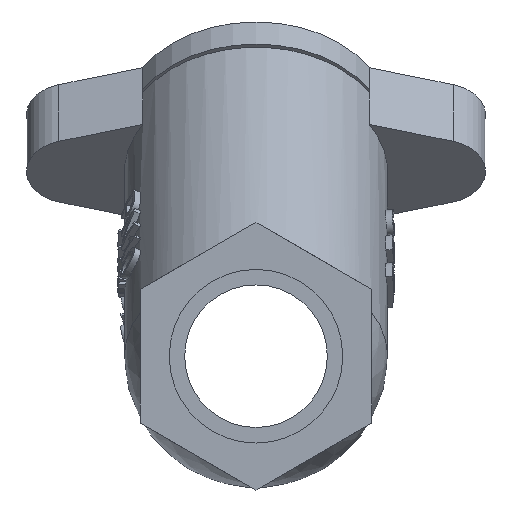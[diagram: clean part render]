
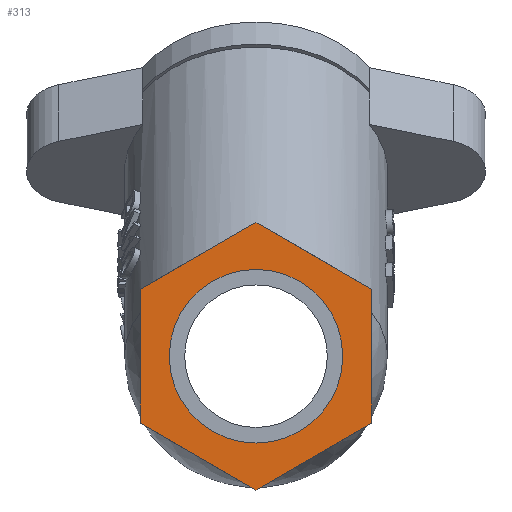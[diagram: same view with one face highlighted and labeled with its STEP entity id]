
A CAD part, left-side view. The second image highlights one B-rep face of the part: STEP entity #313.
In plain terms, the highlighted planar face has unit normal (-1, 0, 0).
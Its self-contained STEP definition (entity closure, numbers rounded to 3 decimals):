
#313 = ADVANCED_FACE( '', ( #791, #792 ), #793, .T. );
#791 = FACE_BOUND( '', #2138, .T. );
#792 = FACE_OUTER_BOUND( '', #2139, .T. );
#793 = PLANE( '', #2140 );
#2138 = EDGE_LOOP( '', ( #6624 ) );
#2139 = EDGE_LOOP( '', ( #6625, #6626, #6627, #6628, #6629, #6630 ) );
#2140 = AXIS2_PLACEMENT_3D( '', #6631, #6632, #6633 );
#6624 = ORIENTED_EDGE( '', *, *, #8209, .T. );
#6625 = ORIENTED_EDGE( '', *, *, #8210, .T. );
#6626 = ORIENTED_EDGE( '', *, *, #8072, .T. );
#6627 = ORIENTED_EDGE( '', *, *, #8211, .T. );
#6628 = ORIENTED_EDGE( '', *, *, #8167, .T. );
#6629 = ORIENTED_EDGE( '', *, *, #8212, .T. );
#6630 = ORIENTED_EDGE( '', *, *, #8213, .T. );
#6631 = CARTESIAN_POINT( '', ( -66., 0., 0. ) );
#6632 = DIRECTION( '', ( -1., 0., 0. ) );
#6633 = DIRECTION( '', ( 0., -1., 0. ) );
#8072 = EDGE_CURVE( '', #8845, #8843, #8846, .T. );
#8167 = EDGE_CURVE( '', #9005, #9003, #9006, .T. );
#8209 = EDGE_CURVE( '', #9075, #9075, #9076, .T. );
#8210 = EDGE_CURVE( '', #9077, #8845, #9078, .T. );
#8211 = EDGE_CURVE( '', #8843, #9005, #9079, .T. );
#8212 = EDGE_CURVE( '', #9003, #9080, #9081, .T. );
#8213 = EDGE_CURVE( '', #9080, #9077, #9082, .T. );
#8843 = VERTEX_POINT( '', #10508 );
#8845 = VERTEX_POINT( '', #10511 );
#8846 = LINE( '', #10512, #10513 );
#9003 = VERTEX_POINT( '', #11028 );
#9005 = VERTEX_POINT( '', #11031 );
#9006 = LINE( '', #11032, #11033 );
#9075 = VERTEX_POINT( '', #11189 );
#9076 = CIRCLE( '', #11190, 19.476 );
#9077 = VERTEX_POINT( '', #11191 );
#9078 = LINE( '', #11192, #11193 );
#9079 = LINE( '', #11194, #11195 );
#9080 = VERTEX_POINT( '', #11196 );
#9081 = LINE( '', #11197, #11198 );
#9082 = LINE( '', #11199, #11200 );
#10508 = CARTESIAN_POINT( '', ( -66., 26., 15.011 ) );
#10511 = CARTESIAN_POINT( '', ( -66., 0., 30.022 ) );
#10512 = CARTESIAN_POINT( '', ( -66., 0., 30.022 ) );
#10513 = VECTOR( '', #14980, 1000. );
#11028 = CARTESIAN_POINT( '', ( -66., 0., -30.022 ) );
#11031 = CARTESIAN_POINT( '', ( -66., 26., -15.011 ) );
#11032 = CARTESIAN_POINT( '', ( -66., 26., -15.011 ) );
#11033 = VECTOR( '', #15035, 1000. );
#11189 = CARTESIAN_POINT( '', ( -66., 0., 19.476 ) );
#11190 = AXIS2_PLACEMENT_3D( '', #15040, #15041, #15042 );
#11191 = CARTESIAN_POINT( '', ( -66., -26., 15.011 ) );
#11192 = CARTESIAN_POINT( '', ( -66., -26., 15.011 ) );
#11193 = VECTOR( '', #15043, 1000. );
#11194 = CARTESIAN_POINT( '', ( -66., 26., 15.011 ) );
#11195 = VECTOR( '', #15044, 1000. );
#11196 = CARTESIAN_POINT( '', ( -66., -26., -15.011 ) );
#11197 = CARTESIAN_POINT( '', ( -66., 0., -30.022 ) );
#11198 = VECTOR( '', #15045, 1000. );
#11199 = CARTESIAN_POINT( '', ( -66., -26., -15.011 ) );
#11200 = VECTOR( '', #15046, 1000. );
#14980 = DIRECTION( '', ( 0., 0.866, -0.5 ) );
#15035 = DIRECTION( '', ( 0., -0.866, -0.5 ) );
#15040 = CARTESIAN_POINT( '', ( -66., 0., 0. ) );
#15041 = DIRECTION( '', ( 1., 0., 0. ) );
#15042 = DIRECTION( '', ( 0., 0., 1. ) );
#15043 = DIRECTION( '', ( 0., 0.866, 0.5 ) );
#15044 = DIRECTION( '', ( 0., 0., -1. ) );
#15045 = DIRECTION( '', ( 0., -0.866, 0.5 ) );
#15046 = DIRECTION( '', ( 0., 0., 1. ) );
